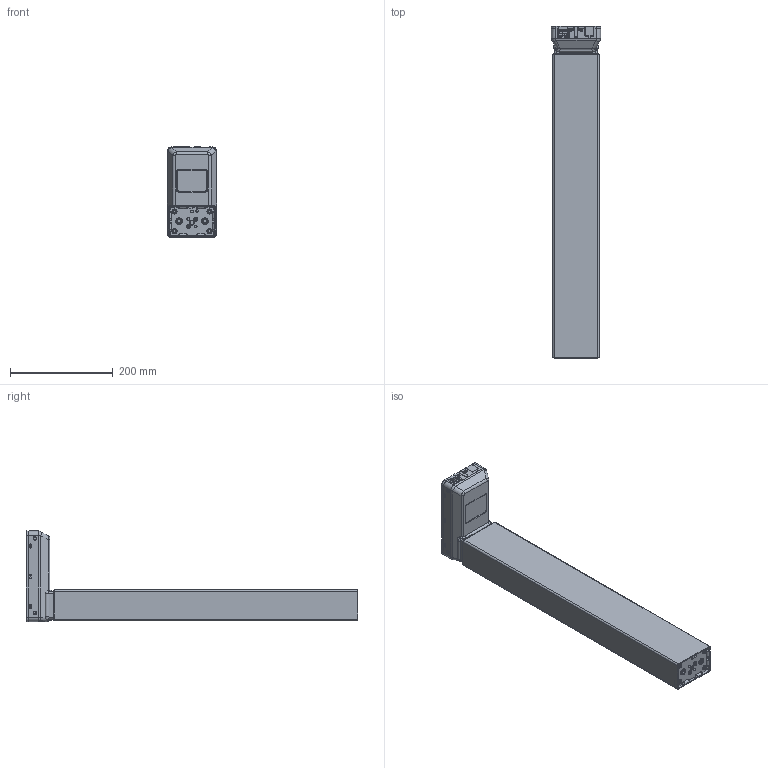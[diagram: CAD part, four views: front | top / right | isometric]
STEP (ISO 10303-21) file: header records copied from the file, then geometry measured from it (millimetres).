
FILE_DESCRIPTION((''),'2;1');
FILE_NAME('1064W8902_ASM','2024-03-04T10:09:38',('bs'),(''),'CREO PARAMETRIC BY PTC INC, 2022024','CREO PARAMETRIC BY PTC INC, 2022024','');
FILE_SCHEMA(('AUTOMOTIVE_DESIGN { 1 0 10303 214 1 1 1 1 }'));
Length unit declared in the file: millimetre
Products named in the file (5): 1064W8902-A-20-2_1; 1064W8902-A-20-1_1; 1041W7906-A-00-1_1; 4006; 1064W8902_ASM
Assembly tree (4 placements, depth 2):
  1064W8902_ASM
    1064W8902-A-20-2_1
    1064W8902-A-20-1_1
    1041W7906-A-00-1_1
    4006
Bounding box: 96.5 x 645 x 178.6 mm (x, y, z)
Volume: 6477897.4 mm3; surface area: 419900 mm2
Topology: 4 solids, 10 shells, 1093 faces, 3066 edges, 2015 vertices
Faces by surface type: plane 472, cylinder 443, torus 92, bspline 64, sphere 14, cone 8
Entity records: 41134 total; most frequent: CARTESIAN_POINT 11548, ORIENTED_EDGE 6104, DIRECTION 5852, EDGE_CURVE 3052, AXIS2_PLACEMENT_3D 2160, VERTEX_POINT 2015, VECTOR 1532, LINE 1532
